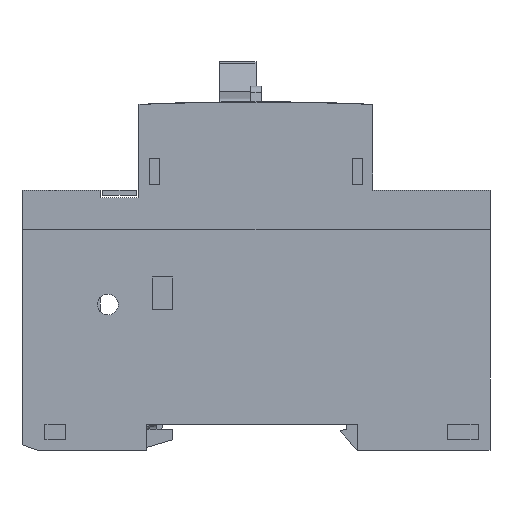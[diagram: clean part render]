
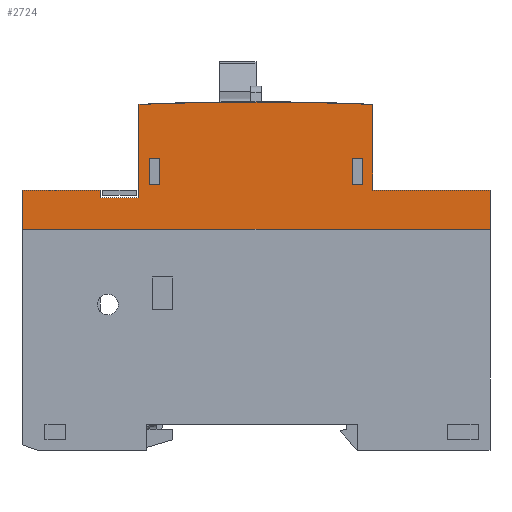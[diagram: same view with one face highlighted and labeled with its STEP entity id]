
A CAD part, left-side view. The second image highlights one B-rep face of the part: STEP entity #2724.
In plain terms, the highlighted planar face has unit normal (-1, 0, 0).
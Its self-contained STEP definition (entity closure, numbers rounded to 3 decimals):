
#1271 = EDGE_CURVE ( 'NONE', #1273, #1272, #7361, .T. ) ;
#1272 = VERTEX_POINT ( 'NONE', #7354 ) ;
#1273 = VERTEX_POINT ( 'NONE', #7353 ) ;
#1424 = ORIENTED_EDGE ( 'NONE', *, *, #2693, .F. ) ;
#1557 = ORIENTED_EDGE ( 'NONE', *, *, #2422, .F. ) ;
#2253 = VERTEX_POINT ( 'NONE', #9822 ) ;
#2293 = VERTEX_POINT ( 'NONE', #9960 ) ;
#2299 = VERTEX_POINT ( 'NONE', #9950 ) ;
#2375 = EDGE_CURVE ( 'NONE', #2253, #2299, #10060, .T. ) ;
#2419 = VERTEX_POINT ( 'NONE', #10173 ) ;
#2422 = EDGE_CURVE ( 'NONE', #2419, #2293, #10172, .T. ) ;
#2651 = EDGE_CURVE ( 'NONE', #2663, #2664, #10535, .T. ) ;
#2660 = EDGE_LOOP ( 'NONE', ( #2725, #2713, #2722, #2723, #2715, #2711, #1557, #1424, #2699, #2702 ) ) ;
#2663 = VERTEX_POINT ( 'NONE', #10593 ) ;
#2664 = VERTEX_POINT ( 'NONE', #10592 ) ;
#2693 = EDGE_CURVE ( 'NONE', #2253, #2419, #10631, .T. ) ;
#2694 = EDGE_CURVE ( 'NONE', #2299, #2663, #10606, .T. ) ;
#2695 = VERTEX_POINT ( 'NONE', #10607 ) ;
#2696 = EDGE_CURVE ( 'NONE', #2700, #2708, #10666, .T. ) ;
#2697 = ORIENTED_EDGE ( 'NONE', *, *, #2768, .T. ) ;
#2698 = EDGE_LOOP ( 'NONE', ( #2704, #2710, #2767, #2697 ) ) ;
#2699 = ORIENTED_EDGE ( 'NONE', *, *, #2375, .T. ) ;
#2700 = VERTEX_POINT ( 'NONE', #10667 ) ;
#2702 = ORIENTED_EDGE ( 'NONE', *, *, #2694, .T. ) ;
#2703 = VERTEX_POINT ( 'NONE', #10620 ) ;
#2704 = ORIENTED_EDGE ( 'NONE', *, *, #2696, .T. ) ;
#2706 = EDGE_CURVE ( 'NONE', #2708, #2695, #10656, .T. ) ;
#2707 = EDGE_LOOP ( 'NONE', ( #2771, #2774, #2754, #2766 ) ) ;
#2708 = VERTEX_POINT ( 'NONE', #10657 ) ;
#2709 = VERTEX_POINT ( 'NONE', #10668 ) ;
#2710 = ORIENTED_EDGE ( 'NONE', *, *, #2706, .T. ) ;
#2711 = ORIENTED_EDGE ( 'NONE', *, *, #2716, .T. ) ;
#2712 = VERTEX_POINT ( 'NONE', #10602 ) ;
#2713 = ORIENTED_EDGE ( 'NONE', *, *, #2720, .T. ) ;
#2714 = EDGE_CURVE ( 'NONE', #2712, #2729, #10649, .T. ) ;
#2715 = ORIENTED_EDGE ( 'NONE', *, *, #1271, .T. ) ;
#2716 = EDGE_CURVE ( 'NONE', #1272, #2293, #10618, .T. ) ;
#2719 = EDGE_CURVE ( 'NONE', #1273, #2729, #10638, .T. ) ;
#2720 = EDGE_CURVE ( 'NONE', #2664, #2712, #10652, .T. ) ;
#2722 = ORIENTED_EDGE ( 'NONE', *, *, #2714, .T. ) ;
#2723 = ORIENTED_EDGE ( 'NONE', *, *, #2719, .F. ) ;
#2724 = ADVANCED_FACE ( 'NONE', ( #10645, #10690, #10684 ), #10687, .T. ) ;
#2725 = ORIENTED_EDGE ( 'NONE', *, *, #2651, .T. ) ;
#2729 = VERTEX_POINT ( 'NONE', #10689 ) ;
#2754 = ORIENTED_EDGE ( 'NONE', *, *, #2778, .T. ) ;
#2755 = EDGE_CURVE ( 'NONE', #2703, #2773, #10755, .T. ) ;
#2765 = EDGE_CURVE ( 'NONE', #2695, #2709, #10786, .T. ) ;
#2766 = ORIENTED_EDGE ( 'NONE', *, *, #2755, .T. ) ;
#2767 = ORIENTED_EDGE ( 'NONE', *, *, #2765, .T. ) ;
#2768 = EDGE_CURVE ( 'NONE', #2709, #2700, #10782, .T. ) ;
#2769 = EDGE_CURVE ( 'NONE', #2773, #2770, #10776, .T. ) ;
#2770 = VERTEX_POINT ( 'NONE', #10780 ) ;
#2771 = ORIENTED_EDGE ( 'NONE', *, *, #2769, .T. ) ;
#2772 = VERTEX_POINT ( 'NONE', #10787 ) ;
#2773 = VERTEX_POINT ( 'NONE', #10772 ) ;
#2774 = ORIENTED_EDGE ( 'NONE', *, *, #2779, .T. ) ;
#2778 = EDGE_CURVE ( 'NONE', #2772, #2703, #10764, .T. ) ;
#2779 = EDGE_CURVE ( 'NONE', #2770, #2772, #10822, .T. ) ;
#7352 = DIRECTION ( 'NONE',  ( 0., 0., 1. ) ) ;
#7353 = CARTESIAN_POINT ( 'NONE',  ( -22.5, 30., 43.5 ) ) ;
#7354 = CARTESIAN_POINT ( 'NONE',  ( -22.5, 30., 45. ) ) ;
#7356 = VECTOR ( 'NONE', #7352, 1000. ) ;
#7360 = CARTESIAN_POINT ( 'NONE',  ( -22.5, 30., 43.5 ) ) ;
#7361 = LINE ( 'NONE', #7360, #7356 ) ;
#9822 = CARTESIAN_POINT ( 'NONE',  ( -22.5, -45., 37.5 ) ) ;
#9950 = CARTESIAN_POINT ( 'NONE',  ( -22.5, -45., 45. ) ) ;
#9960 = CARTESIAN_POINT ( 'NONE',  ( -22.5, 45., 45. ) ) ;
#10054 = DIRECTION ( 'NONE',  ( 0., 0., 1. ) ) ;
#10055 = CARTESIAN_POINT ( 'NONE',  ( -22.5, -45., -5. ) ) ;
#10060 = LINE ( 'NONE', #10055, #10113 ) ;
#10113 = VECTOR ( 'NONE', #10054, 1000. ) ;
#10148 = DIRECTION ( 'NONE',  ( 0., 0., 1. ) ) ;
#10149 = VECTOR ( 'NONE', #10148, 1000. ) ;
#10150 = CARTESIAN_POINT ( 'NONE',  ( -22.5, 45., -5. ) ) ;
#10172 = LINE ( 'NONE', #10150, #10149 ) ;
#10173 = CARTESIAN_POINT ( 'NONE',  ( -22.5, 45., 37.5 ) ) ;
#10521 = DIRECTION ( 'NONE',  ( 0., 0., 1. ) ) ;
#10522 = VECTOR ( 'NONE', #10521, 1000. ) ;
#10534 = CARTESIAN_POINT ( 'NONE',  ( -22.5, -22.5, 62. ) ) ;
#10535 = LINE ( 'NONE', #10534, #10522 ) ;
#10592 = CARTESIAN_POINT ( 'NONE',  ( -22.5, -22.5, 61.5 ) ) ;
#10593 = CARTESIAN_POINT ( 'NONE',  ( -22.5, -22.5, 45. ) ) ;
#10602 = CARTESIAN_POINT ( 'NONE',  ( -22.5, 22.5, 61.5 ) ) ;
#10603 = DIRECTION ( 'NONE',  ( 0., 1., 0. ) ) ;
#10604 = VECTOR ( 'NONE', #10603, 1000. ) ;
#10605 = CARTESIAN_POINT ( 'NONE',  ( -22.5, -22.5, 45. ) ) ;
#10606 = LINE ( 'NONE', #10605, #10604 ) ;
#10607 = CARTESIAN_POINT ( 'NONE',  ( -22.5, 18.5, 51. ) ) ;
#10608 = DIRECTION ( 'NONE',  ( 0., 1., 0. ) ) ;
#10609 = VECTOR ( 'NONE', #10608, 1000. ) ;
#10610 = CARTESIAN_POINT ( 'NONE',  ( -22.5, -45., 37.5 ) ) ;
#10617 = CARTESIAN_POINT ( 'NONE',  ( -22.5, 45., 45. ) ) ;
#10618 = LINE ( 'NONE', #10617, #10643 ) ;
#10620 = CARTESIAN_POINT ( 'NONE',  ( -22.5, -20.5, 46. ) ) ;
#10631 = LINE ( 'NONE', #10610, #10609 ) ;
#10638 = LINE ( 'NONE', #10694, #10693 ) ;
#10642 = DIRECTION ( 'NONE',  ( 0., 1., 0. ) ) ;
#10643 = VECTOR ( 'NONE', #10642, 1000. ) ;
#10644 = CARTESIAN_POINT ( 'NONE',  ( -22.5, 0., -444.5 ) ) ;
#10645 = FACE_OUTER_BOUND ( 'NONE', #2660, .T. ) ;
#10646 = DIRECTION ( 'NONE',  ( 0., 0., -1. ) ) ;
#10647 = VECTOR ( 'NONE', #10646, 1000. ) ;
#10648 = CARTESIAN_POINT ( 'NONE',  ( -22.5, 22.5, 62. ) ) ;
#10649 = LINE ( 'NONE', #10648, #10647 ) ;
#10652 = CIRCLE ( 'NONE', #10658, 506.5 ) ;
#10653 = DIRECTION ( 'NONE',  ( 0., -1., 0. ) ) ;
#10654 = VECTOR ( 'NONE', #10653, 1000. ) ;
#10655 = CARTESIAN_POINT ( 'NONE',  ( -22.5, 18.5, 51. ) ) ;
#10656 = LINE ( 'NONE', #10655, #10654 ) ;
#10657 = CARTESIAN_POINT ( 'NONE',  ( -22.5, 20.5, 51. ) ) ;
#10658 = AXIS2_PLACEMENT_3D ( 'NONE', #10644, #10686, #10685 ) ;
#10663 = DIRECTION ( 'NONE',  ( 0., 0., 1. ) ) ;
#10664 = VECTOR ( 'NONE', #10663, 1000. ) ;
#10665 = CARTESIAN_POINT ( 'NONE',  ( -22.5, 20.5, 51. ) ) ;
#10666 = LINE ( 'NONE', #10665, #10664 ) ;
#10667 = CARTESIAN_POINT ( 'NONE',  ( -22.5, 20.5, 46. ) ) ;
#10668 = CARTESIAN_POINT ( 'NONE',  ( -22.5, 18.5, 46. ) ) ;
#10684 = FACE_BOUND ( 'NONE', #2707, .T. ) ;
#10685 = DIRECTION ( 'NONE',  ( 0., 0., -1. ) ) ;
#10686 = DIRECTION ( 'NONE',  ( -1., 0., 0. ) ) ;
#10687 = PLANE ( 'NONE',  #10691 ) ;
#10689 = CARTESIAN_POINT ( 'NONE',  ( -22.5, 22.5, 43.5 ) ) ;
#10690 = FACE_BOUND ( 'NONE', #2698, .T. ) ;
#10691 = AXIS2_PLACEMENT_3D ( 'NONE', #10726, #10725, #10724 ) ;
#10692 = DIRECTION ( 'NONE',  ( 0., -1., 0. ) ) ;
#10693 = VECTOR ( 'NONE', #10692, 1000. ) ;
#10694 = CARTESIAN_POINT ( 'NONE',  ( -22.5, 30., 43.5 ) ) ;
#10695 = DIRECTION ( 'NONE',  ( 0., 1., 0. ) ) ;
#10696 = CARTESIAN_POINT ( 'NONE',  ( -22.5, -20.5, 46. ) ) ;
#10724 = DIRECTION ( 'NONE',  ( 0., 0., 1. ) ) ;
#10725 = DIRECTION ( 'NONE',  ( -1., 0., 0. ) ) ;
#10726 = CARTESIAN_POINT ( 'NONE',  ( -22.5, 45., -5. ) ) ;
#10744 = VECTOR ( 'NONE', #10695, 1000. ) ;
#10755 = LINE ( 'NONE', #10696, #10744 ) ;
#10761 = DIRECTION ( 'NONE',  ( 0., 0., -1. ) ) ;
#10762 = VECTOR ( 'NONE', #10761, 1000. ) ;
#10763 = CARTESIAN_POINT ( 'NONE',  ( -22.5, -20.5, 51. ) ) ;
#10764 = LINE ( 'NONE', #10763, #10762 ) ;
#10772 = CARTESIAN_POINT ( 'NONE',  ( -22.5, -18.5, 46. ) ) ;
#10773 = DIRECTION ( 'NONE',  ( 0., 0., 1. ) ) ;
#10774 = VECTOR ( 'NONE', #10773, 1000. ) ;
#10775 = CARTESIAN_POINT ( 'NONE',  ( -22.5, -18.5, 51. ) ) ;
#10776 = LINE ( 'NONE', #10775, #10774 ) ;
#10777 = DIRECTION ( 'NONE',  ( 0., 1., 0. ) ) ;
#10778 = VECTOR ( 'NONE', #10777, 1000. ) ;
#10780 = CARTESIAN_POINT ( 'NONE',  ( -22.5, -18.5, 51. ) ) ;
#10781 = CARTESIAN_POINT ( 'NONE',  ( -22.5, 18.5, 46. ) ) ;
#10782 = LINE ( 'NONE', #10781, #10778 ) ;
#10783 = DIRECTION ( 'NONE',  ( 0., 0., -1. ) ) ;
#10784 = VECTOR ( 'NONE', #10783, 1000. ) ;
#10785 = CARTESIAN_POINT ( 'NONE',  ( -22.5, 18.5, 51. ) ) ;
#10786 = LINE ( 'NONE', #10785, #10784 ) ;
#10787 = CARTESIAN_POINT ( 'NONE',  ( -22.5, -20.5, 51. ) ) ;
#10818 = DIRECTION ( 'NONE',  ( 0., -1., 0. ) ) ;
#10819 = VECTOR ( 'NONE', #10818, 1000. ) ;
#10821 = CARTESIAN_POINT ( 'NONE',  ( -22.5, -20.5, 51. ) ) ;
#10822 = LINE ( 'NONE', #10821, #10819 ) ;
